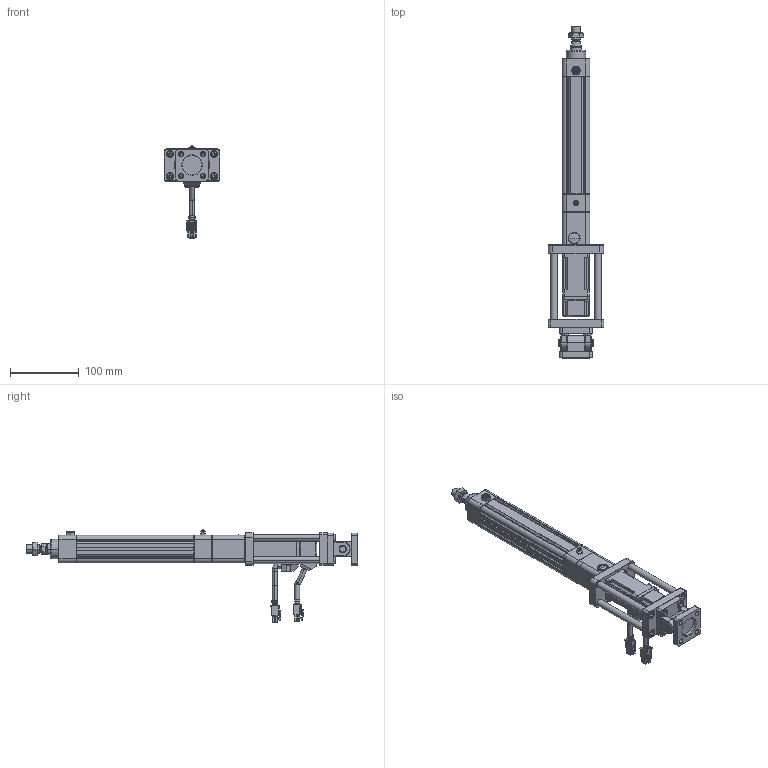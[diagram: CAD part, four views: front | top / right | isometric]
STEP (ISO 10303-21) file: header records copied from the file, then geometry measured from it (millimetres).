
FILE_DESCRIPTION((''),'2;1');
FILE_NAME('HE32-D-100-2-5_ASM','2020-05-18T',('ASUS20200'),(''),'CREO PARAMETRIC BY PTC INC, 2014190','CREO PARAMETRIC BY PTC INC, 2014190','');
FILE_SCHEMA(('CONFIG_CONTROL_DESIGN'));
Length unit declared in the file: millimetre
Products named in the file (30): HE32-001-X1; HE32-002-X1; HE32-003-X1; 636ZZ; LGLM-M6-22; HE32-007-X1; HE32-008-X1; 1_1; 2_1; 3_1; 4_1; 5_1; 6_1; 7_1; ASM0001_ASM; TF1622-20; SLM-01; YZ-M6X1; SKT-13; HE32-40N-FB-LG10; F-HE32FB; M6X16; F-SE32CB; F-SE32CB-XD; F-SE32CB_ASM; F-SE32CA; HE32-005-X1; HE32-004-X1; HE32-D-P-008-X1; HE32-D-100-2-5_ASM
Assembly tree (51 placements, depth 3):
  HE32-D-100-2-5_ASM
    HE32-001-X1
    HE32-002-X1
    HE32-003-X1
    636ZZ
    LGLM-M6-22  x9
    HE32-007-X1
    HE32-008-X1
    ASM0001_ASM
      1_1
      2_1
      3_1
      4_1
      5_1
      6_1
      7_1
    TF1622-20
    SLM-01
    YZ-M6X1
    SKT-13
    HE32-40N-FB-LG10  x4
    F-HE32FB
    M6X16  x12
    F-SE32CB_ASM
      F-SE32CB
      F-SE32CB-XD
    F-SE32CA
    HE32-005-X1
    HE32-004-X1
    HE32-D-P-008-X1
Bounding box: 80 x 482 x 134.2 mm (x, y, z)
Volume: 575124.9 mm3; surface area: 253184.7 mm2
Topology: 49 solids, 87 shells, 2853 faces, 6741 edges, 4139 vertices
Faces by surface type: plane 1139, cylinder 838, cone 754, torus 82, sphere 22, bspline 18
Entity records: 66901 total; most frequent: CARTESIAN_POINT 12820, DIRECTION 11920, ORIENTED_EDGE 10558, EDGE_CURVE 5327, AXIS2_PLACEMENT_3D 4489, VERTEX_POINT 3308, VECTOR 2942, LINE 2942
